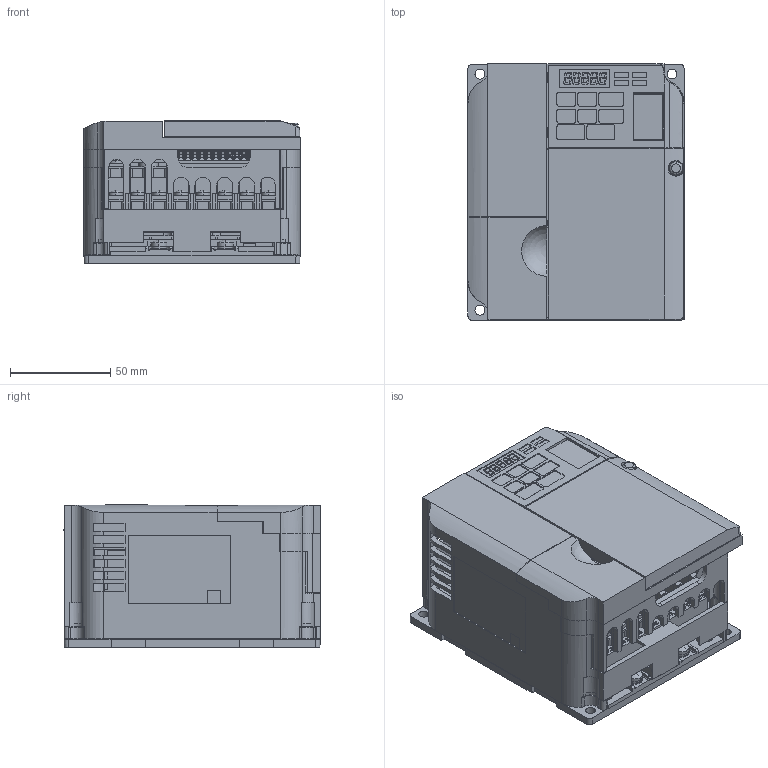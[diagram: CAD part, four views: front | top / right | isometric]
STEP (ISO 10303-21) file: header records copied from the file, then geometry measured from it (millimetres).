
FILE_DESCRIPTION((''),'2;1');
FILE_NAME('VU2A0010JAA_ASM','2010-03-09T',('jmattas'),(''),'PRO/ENGINEER BY PARAMETRIC TECHNOLOGY CORPORATION, 2009380','PRO/ENGINEER BY PARAMETRIC TECHNOLOGY CORPORATION, 2009380','');
FILE_SCHEMA(('CONFIG_CONTROL_DESIGN'));
Products named in the file (7): VU2A0010JAA_BASE; VU2A0010JAA_COVER1; VU2A0010JAA_COVER2; VU2A0010JAA_COVER3; VU2A0010JAA_COVER4; VU2A0010JAA_COVER5; VU2A0010JAA_ASM
Assembly tree (6 placements, depth 2):
  VU2A0010JAA_ASM
    VU2A0010JAA_BASE
    VU2A0010JAA_COVER1
    VU2A0010JAA_COVER2
    VU2A0010JAA_COVER3
    VU2A0010JAA_COVER4
    VU2A0010JAA_COVER5
Bounding box: 108 x 128.05 x 71.35 mm (x, y, z)
Volume: 330396.1 mm3; surface area: 222035.7 mm2
Topology: 6 solids, 8 shells, 4362 faces, 11955 edges, 7839 vertices
Faces by surface type: plane 3493, cylinder 668, extrusion 105, cone 36, torus 30, sphere 28, bspline 2
Entity records: 137933 total; most frequent: CARTESIAN_POINT 26293, ORIENTED_EDGE 23856, DIRECTION 21799, EDGE_CURVE 11928, VECTOR 9973, LINE 9868, VERTEX_POINT 7839, AXIS2_PLACEMENT_3D 5913
